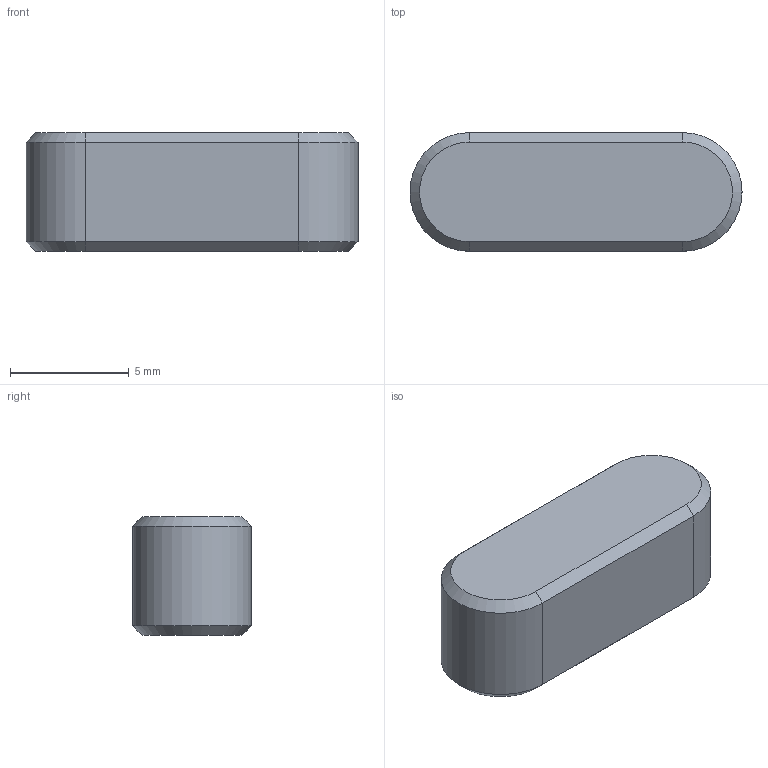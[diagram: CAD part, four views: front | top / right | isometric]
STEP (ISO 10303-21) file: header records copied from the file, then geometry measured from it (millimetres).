
FILE_DESCRIPTION(/* description */ (''),/* implementation_level */ '2;1');
FILE_NAME(/* name */ '',/* time_stamp */ '2026-07-02T09:04:59+09:00',/* author */ ('jhkim'),/* organization */ (''),/* preprocessor_version */ 'ST-DEVELOPER v20.1',/* originating_system */ 'Autodesk Inventor 2027',/* authorisation */ '');
FILE_SCHEMA (('AUTOMOTIVE_DESIGN { 1 0 10303 214 3 1 1 }'));
Length unit declared in the file: millimetre
Products named in the file (1): 평행 키 5x5x14
Bounding box: 14 x 5 x 5 mm (x, y, z)
Volume: 317.9 mm3; surface area: 281.6 mm2
Topology: 1 solids, 1 shells, 14 faces, 28 edges, 16 vertices
Faces by surface type: plane 8, cone 4, cylinder 2
Entity records: 399 total; most frequent: DIRECTION 66, CARTESIAN_POINT 59, ORIENTED_EDGE 56, EDGE_CURVE 28, AXIS2_PLACEMENT_3D 23, LINE 20, VECTOR 20, VERTEX_POINT 16
